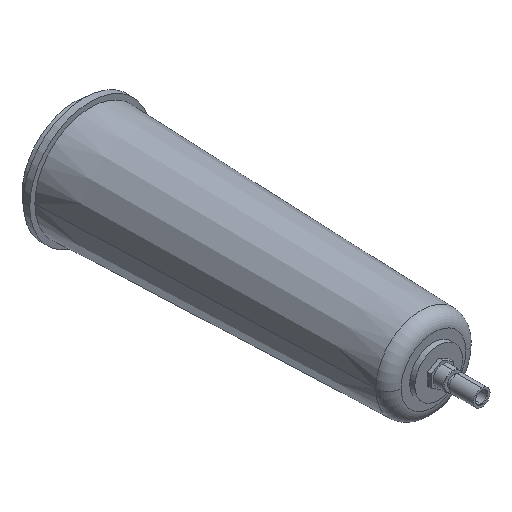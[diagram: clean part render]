
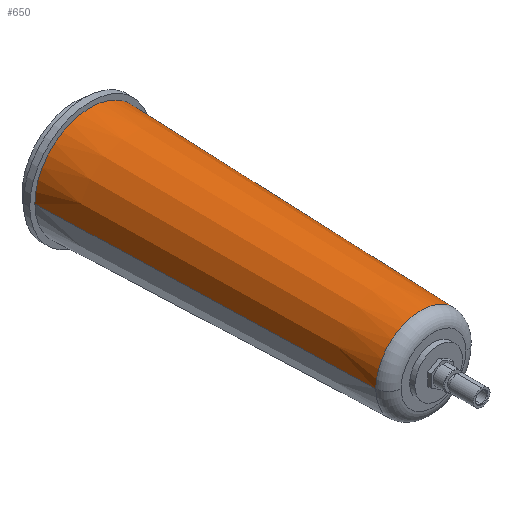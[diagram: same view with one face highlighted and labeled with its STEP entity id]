
A CAD part, isometric view. The second image highlights one B-rep face of the part: STEP entity #650.
In plain terms, the highlighted conical face has half-angle 1.781 degrees and reference radius 39.25 mm.
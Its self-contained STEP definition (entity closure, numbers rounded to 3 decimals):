
#50=CARTESIAN_POINT('',(0.,-269.311,0.));
#51=DIRECTION('',(0.,-1.,0.));
#52=DIRECTION('',(1.,0.,0.));
#53=AXIS2_PLACEMENT_3D('',#50,#51,#52);
#55=DIRECTION('',(0.031,1.,0.));
#56=VECTOR('',#55,257.435);
#57=CARTESIAN_POINT('',(35.25,-269.311,0.));
#58=LINE('1649',#57,#56);
#59=DIRECTION('',(-0.031,1.,0.));
#60=VECTOR('',#59,257.435);
#61=CARTESIAN_POINT('',(-35.25,-269.311,0.));
#62=LINE('1661',#61,#60);
#92=CARTESIAN_POINT('',(0.,-12.,0.));
#93=DIRECTION('',(0.,-1.,0.));
#94=DIRECTION('',(1.,0.,0.));
#95=AXIS2_PLACEMENT_3D('',#92,#93,#94);
#507=CARTESIAN_POINT('',(35.25,-269.311,0.));
#509=VERTEX_POINT('',#507);
#510=CARTESIAN_POINT('',(43.25,-12.,0.));
#511=VERTEX_POINT('',#510);
#525=CARTESIAN_POINT('',(-35.25,-269.311,0.));
#527=VERTEX_POINT('',#525);
#528=CARTESIAN_POINT('',(-43.25,-12.,0.));
#529=VERTEX_POINT('',#528);
#636=CARTESIAN_POINT('',(0.,-140.655,0.));
#637=DIRECTION('',(0.,1.,0.));
#638=DIRECTION('',(1.,0.,0.));
#639=AXIS2_PLACEMENT_3D('',#636,#637,#638);
#640=CONICAL_SURFACE('1677',#639,39.25,1.781);
#642=ORIENTED_EDGE('1649',*,*,#641,.F.);
#643=ORIENTED_EDGE('1678',*,*,#631,.T.);
#645=ORIENTED_EDGE('1661',*,*,#644,.T.);
#647=ORIENTED_EDGE('1680',*,*,#646,.F.);
#648=EDGE_LOOP('1677',(#642,#643,#645,#647));
#649=FACE_OUTER_BOUND('1677',#648,.F.);
#650=ADVANCED_FACE('1677',(#649),#640,.T.);
#54=CIRCLE('1678',#53,35.25);
#96=CIRCLE('1680',#95,43.25);
#631=EDGE_CURVE('1678',#509,#527,#54,.T.);
#641=EDGE_CURVE('1649',#509,#511,#58,.T.);
#644=EDGE_CURVE('1661',#527,#529,#62,.T.);
#646=EDGE_CURVE('1680',#511,#529,#96,.T.);
